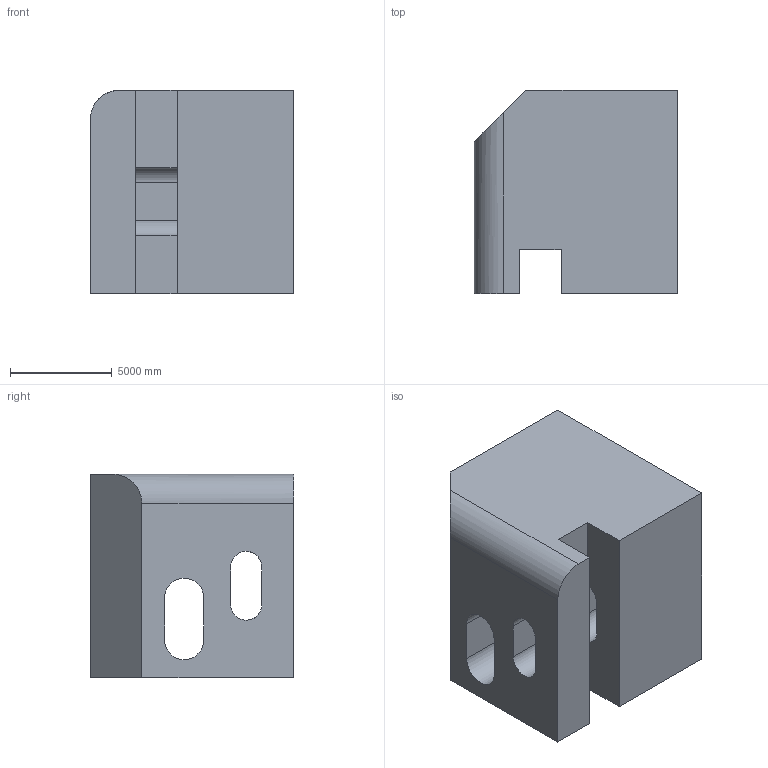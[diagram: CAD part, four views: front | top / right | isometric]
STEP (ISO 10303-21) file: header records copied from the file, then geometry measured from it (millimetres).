
FILE_DESCRIPTION (( 'STEP AP203' ), '1' );
FILE_NAME ('1473.STEP', '2022-08-18T14:41:21', ( 'user' ), ( '' ), 'SwSTEP 2.0', 'SolidWorks 2021', '' );
FILE_SCHEMA (( 'CONFIG_CONTROL_DESIGN' ));
Length unit declared in the file: centimetre
Products named in the file (1): 1473
Bounding box: 10000 x 10000 x 10000 mm (x, y, z)
Volume: 808220533408.5 mm3; surface area: 753525528.6 mm2
Topology: 1 solids, 1 shells, 24 faces, 72 edges, 48 vertices
Faces by surface type: plane 17, cylinder 7
Entity records: 902 total; most frequent: CARTESIAN_POINT 148, ORIENTED_EDGE 144, DIRECTION 138, EDGE_CURVE 72, LINE 54, VECTOR 54, VERTEX_POINT 48, AXIS2_PLACEMENT_3D 42
